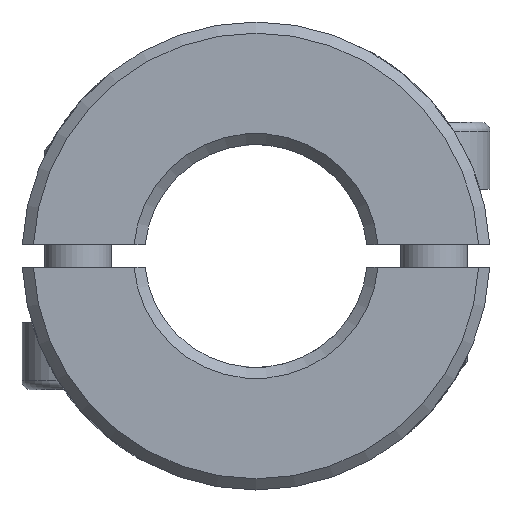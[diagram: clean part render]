
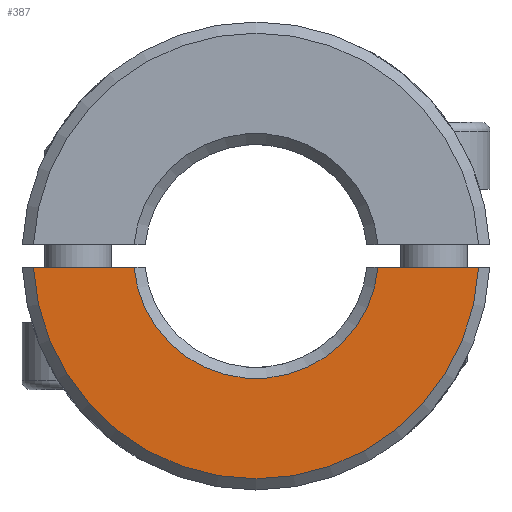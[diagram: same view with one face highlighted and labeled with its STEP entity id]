
A CAD part, front view. The second image highlights one B-rep face of the part: STEP entity #387.
In plain terms, the highlighted planar face has unit normal (0, -1, 0).
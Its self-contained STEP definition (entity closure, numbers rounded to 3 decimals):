
#387 = ADVANCED_FACE( '', ( #758 ), #759, .F. );
#758 = FACE_OUTER_BOUND( '', #1094, .T. );
#759 = PLANE( '', #1095 );
#1094 = EDGE_LOOP( '', ( #1735, #1736, #1737, #1738 ) );
#1095 = AXIS2_PLACEMENT_3D( '', #1739, #1740, #1741 );
#1735 = ORIENTED_EDGE( '', *, *, #1969, .F. );
#1736 = ORIENTED_EDGE( '', *, *, #1972, .T. );
#1737 = ORIENTED_EDGE( '', *, *, #1891, .F. );
#1738 = ORIENTED_EDGE( '', *, *, #1807, .T. );
#1739 = CARTESIAN_POINT( '', ( 0., -65., 0. ) );
#1740 = DIRECTION( '', ( 0., 1., 0. ) );
#1741 = DIRECTION( '', ( 0., 0., 1. ) );
#1807 = EDGE_CURVE( '', #2067, #2064, #2068, .F. );
#1891 = EDGE_CURVE( '', #2067, #2206, #2207, .T. );
#1969 = EDGE_CURVE( '', #2320, #2064, #2322, .T. );
#1972 = EDGE_CURVE( '', #2320, #2206, #2326, .T. );
#2064 = VERTEX_POINT( '', #2436 );
#2067 = VERTEX_POINT( '', #2442 );
#2068 = CIRCLE( '', #2443, 20. );
#2206 = VERTEX_POINT( '', #3299 );
#2207 = LINE( '', #3300, #3301 );
#2320 = VERTEX_POINT( '', #3623 );
#2322 = LINE( '', #3628, #3629 );
#2326 = CIRCLE( '', #3633, 11. );
#2436 = CARTESIAN_POINT( '', ( 19.975, -65., -1. ) );
#2442 = CARTESIAN_POINT( '', ( -19.975, -65., -1. ) );
#2443 = AXIS2_PLACEMENT_3D( '', #3899, #3900, #3901 );
#3299 = CARTESIAN_POINT( '', ( -10.954, -65., -1. ) );
#3300 = CARTESIAN_POINT( '', ( 0., -65., -1. ) );
#3301 = VECTOR( '', #4000, 1000. );
#3623 = CARTESIAN_POINT( '', ( 10.954, -65., -1. ) );
#3628 = CARTESIAN_POINT( '', ( 0., -65., -1. ) );
#3629 = VECTOR( '', #4102, 1000. );
#3633 = AXIS2_PLACEMENT_3D( '', #4106, #4107, #4108 );
#3899 = CARTESIAN_POINT( '', ( 0., -65., 0. ) );
#3900 = DIRECTION( '', ( 0., 1., 0. ) );
#3901 = DIRECTION( '', ( 0., 0., 1. ) );
#4000 = DIRECTION( '', ( 1., 0., 0. ) );
#4102 = DIRECTION( '', ( 1., 0., 0. ) );
#4106 = CARTESIAN_POINT( '', ( 0., -65., 0. ) );
#4107 = DIRECTION( '', ( 0., 1., 0. ) );
#4108 = DIRECTION( '', ( 0., 0., 1. ) );
